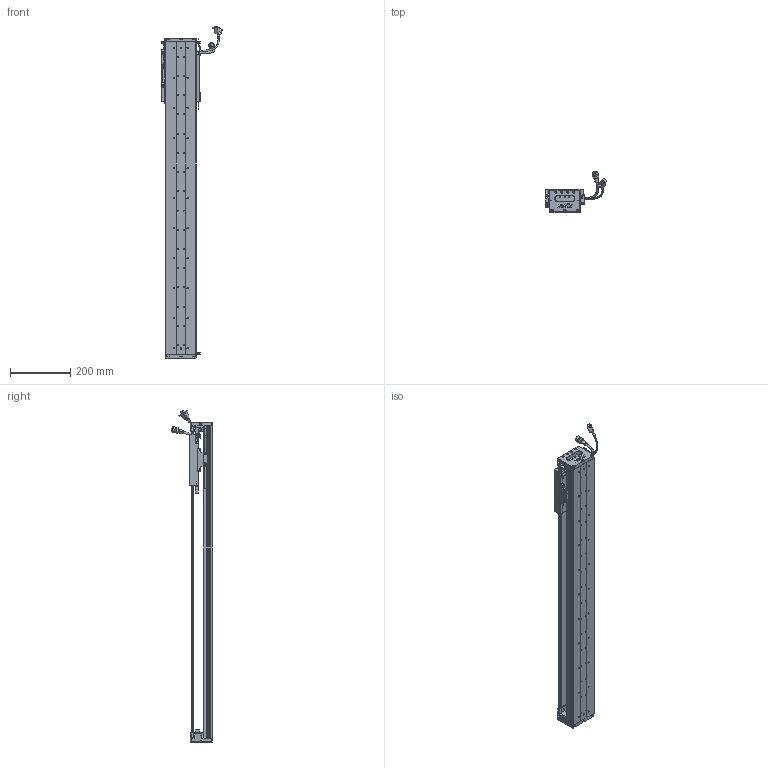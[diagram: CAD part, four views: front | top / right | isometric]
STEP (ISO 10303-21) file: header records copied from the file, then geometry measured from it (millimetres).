
FILE_DESCRIPTION (( 'STEP AP203' ), '1' );
FILE_NAME ('Z2-RY100D-1-L500-B-K.SLDASM_0800.step', '2021-05-17T02:35:35', ( '盈信电脑' ), ( '东莞市道滘镇水果街19号' ), 'SwSTEP 2.0', 'SolidWorks 2016', '' );
FILE_SCHEMA (( 'CONFIG_CONTROL_DESIGN' ));
Length unit declared in the file: millimetre
Products named in the file (36): SCALE; PSLH080_PSLF2; SCREW-M1.7; Z2-RY100D-1-L500-B-K.SLDASM_0800; HARNESS-Part-2; COVER; 140蚥薯蝶輸; 140雄赽晤鎢ん堤盄; SHIELDPLATE; 080黍杅芛假蚾釱21遴; SCREW-M1.6-3; HARNESS; HARNESS-Part-1; SEAL-Part-1; Z-RY100D詩湍狟揤裔; Z2-RY100-L500詩湍90mm遵_0800; Z2-RY100D-500-倰第菁釱_0800; PBU_SHEET; 覜茼ん672; HOLDER0; COVER-Part-1; SCALE-Part-1; Z2-RY100铝滑块（21款）; 榋妏寠巭燃_暯_M2_2; SCREW-M1.6; SEAL; SCREW-M1.6-2; LABEL-Part-1; LABEL; SCREW-M1.7-1; SCALE-Part-2; Z-RY100D覜茼んえ; Z-100詩湍傷裔啣; SCREW-M1.6-1; 100-Z-臏賑輸盄裔(21遴); Z-RY100D詩湍奻揤裔
Assembly tree (43 placements, depth 4):
  Z2-RY100D-1-L500-B-K.SLDASM_0800
    Z2-RY100D-500-倰第菁釱_0800
    Z2-RY100铝滑块（21款）
    PSLH080_PSLF2
      SCALE
        SCALE-Part-1
        SCALE-Part-2
      HARNESS
        HARNESS-Part-1
        HARNESS-Part-2
      LABEL
        LABEL-Part-1
      COVER
        COVER-Part-1
      SEAL
        SEAL-Part-1
      榋妏寠巭燃_暯_M2_2
      SHIELDPLATE
      SCREW-M1.7
      SCREW-M1.7-1
      PBU_SHEET
      SCREW-M1.6
      SCREW-M1.6-1
      SCREW-M1.6-2
      SCREW-M1.6-3
      HOLDER0
    080黍杅芛假蚾釱21遴
    Z-100詩湍傷裔啣  x2
    140蚥薯蝶輸  x2
    覜茼ん672  x3
    Z-RY100D覜茼んえ  x3
    100-Z-臏賑輸盄裔(21遴)
    140雄赽晤鎢ん堤盄
    Z2-RY100-L500詩湍90mm遵_0800
    Z-RY100D詩湍狟揤裔  x2
    Z-RY100D詩湍奻揤裔  x2
Bounding box: 205.84 x 136.11 x 1105.43 mm (x, y, z)
Volume: 2288232.9 mm3; surface area: 886155.8 mm2
Topology: 38 solids, 38 shells, 2572 faces, 6759 edges, 4280 vertices
Faces by surface type: plane 1122, cylinder 1110, cone 218, torus 69, bspline 53
Entity records: 69955 total; most frequent: CARTESIAN_POINT 14780, DIRECTION 11055, ORIENTED_EDGE 10414, EDGE_CURVE 5207, AXIS2_PLACEMENT_3D 4059, VERTEX_POINT 3348, VECTOR 2937, LINE 2937
